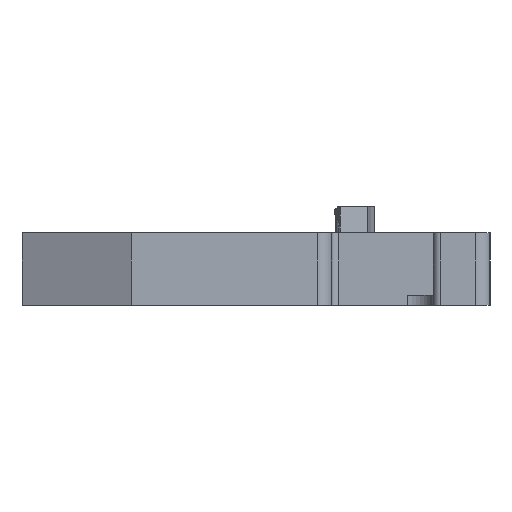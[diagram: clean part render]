
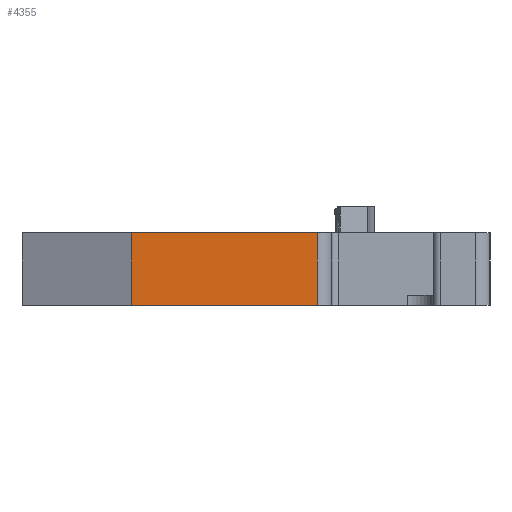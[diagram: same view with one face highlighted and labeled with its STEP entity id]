
A CAD part, left-side view. The second image highlights one B-rep face of the part: STEP entity #4355.
In plain terms, the highlighted planar face has unit normal (-1, 0, 0).
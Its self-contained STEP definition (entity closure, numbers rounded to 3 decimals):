
#2889 = ORIENTED_EDGE ( 'NONE', *, *, #8504, .T. ) ;
#2993 = CARTESIAN_POINT ( 'NONE',  ( -38.069, -4.2, 1.969 ) ) ;
#3444 = VERTEX_POINT ( 'NONE', #42170 ) ;
#4355 = ADVANCED_FACE ( 'NONE', ( #7976 ), #27070, .T. ) ;
#4765 = VERTEX_POINT ( 'NONE', #9565 ) ;
#6825 = CARTESIAN_POINT ( 'NONE',  ( -38.069, -4.2, -3.031 ) ) ;
#7060 = DIRECTION ( 'NONE',  ( 0., 0., 1. ) ) ;
#7976 = FACE_OUTER_BOUND ( 'NONE', #21945, .T. ) ;
#8504 = EDGE_CURVE ( 'NONE', #3444, #42286, #18545, .T. ) ;
#8754 = VECTOR ( 'NONE', #38234, 1000. ) ;
#9565 = CARTESIAN_POINT ( 'NONE',  ( -38.069, 8.6, 1.969 ) ) ;
#10535 = DIRECTION ( 'NONE',  ( 0., 0., 1. ) ) ;
#12448 = CARTESIAN_POINT ( 'NONE',  ( -38.069, 8.6, -3.031 ) ) ;
#12956 = DIRECTION ( 'NONE',  ( 0., -1., 0. ) ) ;
#13580 = VECTOR ( 'NONE', #33048, 1000. ) ;
#13634 = ORIENTED_EDGE ( 'NONE', *, *, #24517, .F. ) ;
#16137 = CARTESIAN_POINT ( 'NONE',  ( -38.069, 8.6, -3.031 ) ) ;
#17162 = CARTESIAN_POINT ( 'NONE',  ( -38.069, 8.6, -3.031 ) ) ;
#18545 = LINE ( 'NONE', #6825, #32420 ) ;
#18815 = VERTEX_POINT ( 'NONE', #26125 ) ;
#19276 = LINE ( 'NONE', #26442, #13580 ) ;
#19763 = DIRECTION ( 'NONE',  ( -1., 0., 0. ) ) ;
#21945 = EDGE_LOOP ( 'NONE', ( #34218, #13634, #32983, #2889 ) ) ;
#24517 = EDGE_CURVE ( 'NONE', #18815, #4765, #38443, .T. ) ;
#26125 = CARTESIAN_POINT ( 'NONE',  ( -38.069, 8.6, -3.031 ) ) ;
#26442 = CARTESIAN_POINT ( 'NONE',  ( -38.069, 8.6, 1.969 ) ) ;
#26743 = AXIS2_PLACEMENT_3D ( 'NONE', #16137, #19763, #12956 ) ;
#27070 = PLANE ( 'NONE',  #26743 ) ;
#29681 = VECTOR ( 'NONE', #7060, 1000. ) ;
#32420 = VECTOR ( 'NONE', #10535, 1000. ) ;
#32983 = ORIENTED_EDGE ( 'NONE', *, *, #42736, .T. ) ;
#33048 = DIRECTION ( 'NONE',  ( 0., -1., 0. ) ) ;
#34218 = ORIENTED_EDGE ( 'NONE', *, *, #40360, .F. ) ;
#38234 = DIRECTION ( 'NONE',  ( 0., -1., 0. ) ) ;
#38443 = LINE ( 'NONE', #17162, #29681 ) ;
#40360 = EDGE_CURVE ( 'NONE', #4765, #42286, #19276, .T. ) ;
#40688 = LINE ( 'NONE', #12448, #8754 ) ;
#42170 = CARTESIAN_POINT ( 'NONE',  ( -38.069, -4.2, -3.031 ) ) ;
#42286 = VERTEX_POINT ( 'NONE', #2993 ) ;
#42736 = EDGE_CURVE ( 'NONE', #18815, #3444, #40688, .T. ) ;
